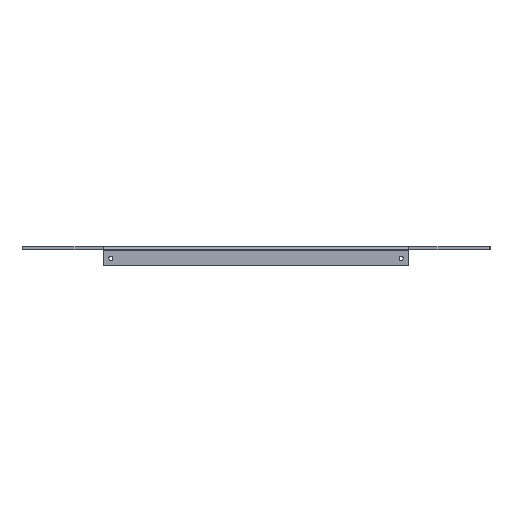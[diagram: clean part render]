
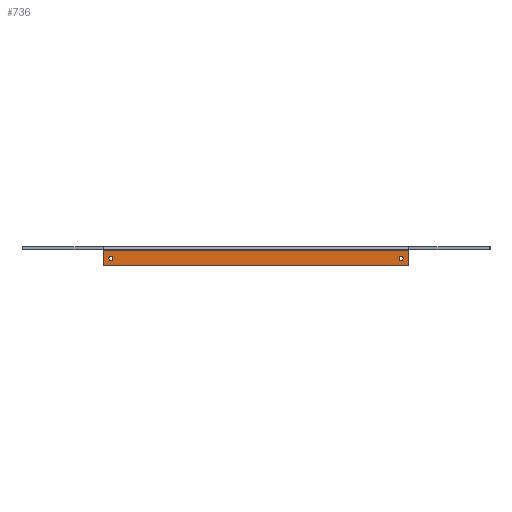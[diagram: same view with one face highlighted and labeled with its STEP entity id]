
A CAD part, left-side view. The second image highlights one B-rep face of the part: STEP entity #736.
In plain terms, the highlighted planar face has unit normal (-1, 0, 0).
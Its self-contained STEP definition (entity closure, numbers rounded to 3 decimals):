
#623=CARTESIAN_POINT('',(375.,4788.5,823.5));
#624=VERTEX_POINT('',#623);
#631=CARTESIAN_POINT('',(375.,5178.5,823.5));
#632=VERTEX_POINT('',#631);
#633=CARTESIAN_POINT('',(375.,5178.5,823.5));
#634=DIRECTION('',(-0.,-1.,-0.));
#635=VECTOR('',#634,390.);
#636=LINE('',#633,#635);
#637=EDGE_CURVE('',#632,#624,#636,.T.);
#648=CARTESIAN_POINT('',(375.,4693.5,840.));
#649=DIRECTION('',(-1.,0.,0.));
#650=DIRECTION('',(-0.,-1.,-0.));
#651=AXIS2_PLACEMENT_3D('',#648,#649,#650);
#652=PLANE('',#651);
#653=CARTESIAN_POINT('',(375.,5169.5,829.9));
#654=VERTEX_POINT('',#653);
#655=CARTESIAN_POINT('',(375.,5166.9,832.5));
#656=VERTEX_POINT('',#655);
#657=CARTESIAN_POINT('',(375.,5169.5,832.5));
#658=DIRECTION('',(-1.,0.,0.));
#659=DIRECTION('',(-0.,-1.,0.));
#660=AXIS2_PLACEMENT_3D('',#657,#658,#659);
#661=CIRCLE('',#660,2.6);
#662=EDGE_CURVE('',#654,#656,#661,.T.);
#663=ORIENTED_EDGE('',*,*,#662,.F.);
#664=CARTESIAN_POINT('',(375.,5169.5,832.5));
#665=DIRECTION('',(-1.,0.,0.));
#666=DIRECTION('',(-0.,-1.,0.));
#667=AXIS2_PLACEMENT_3D('',#664,#665,#666);
#668=CIRCLE('',#667,2.6);
#669=EDGE_CURVE('',#656,#654,#668,.T.);
#670=ORIENTED_EDGE('',*,*,#669,.F.);
#671=EDGE_LOOP('',(#663,#670));
#672=FACE_BOUND('',#671,.T.);
#673=CARTESIAN_POINT('',(375.,4797.5,829.9));
#674=VERTEX_POINT('',#673);
#675=CARTESIAN_POINT('',(375.,4794.9,832.5));
#676=VERTEX_POINT('',#675);
#677=CARTESIAN_POINT('',(375.,4797.5,832.5));
#678=DIRECTION('',(-1.,0.,0.));
#679=DIRECTION('',(-0.,-1.,0.));
#680=AXIS2_PLACEMENT_3D('',#677,#678,#679);
#681=CIRCLE('',#680,2.6);
#682=EDGE_CURVE('',#674,#676,#681,.T.);
#683=ORIENTED_EDGE('',*,*,#682,.F.);
#684=CARTESIAN_POINT('',(375.,4797.5,832.5));
#685=DIRECTION('',(-1.,0.,0.));
#686=DIRECTION('',(-0.,-1.,0.));
#687=AXIS2_PLACEMENT_3D('',#684,#685,#686);
#688=CIRCLE('',#687,2.6);
#689=EDGE_CURVE('',#676,#674,#688,.T.);
#690=ORIENTED_EDGE('',*,*,#689,.F.);
#691=EDGE_LOOP('',(#683,#690));
#692=FACE_BOUND('',#691,.T.);
#693=CARTESIAN_POINT('',(375.,4787.5,842.5));
#694=VERTEX_POINT('',#693);
#695=CARTESIAN_POINT('',(375.,4787.5,824.5));
#696=VERTEX_POINT('',#695);
#697=CARTESIAN_POINT('',(375.,4787.5,842.5));
#698=DIRECTION('',(0.,0.,-1.));
#699=VECTOR('',#698,18.);
#700=LINE('',#697,#699);
#701=EDGE_CURVE('',#694,#696,#700,.T.);
#702=ORIENTED_EDGE('',*,*,#701,.F.);
#703=CARTESIAN_POINT('',(375.,5179.5,842.5));
#704=VERTEX_POINT('',#703);
#705=CARTESIAN_POINT('',(375.,4787.5,842.5));
#706=DIRECTION('',(0.,1.,0.));
#707=VECTOR('',#706,392.);
#708=LINE('',#705,#707);
#709=EDGE_CURVE('',#694,#704,#708,.T.);
#710=ORIENTED_EDGE('',*,*,#709,.T.);
#711=CARTESIAN_POINT('',(375.,5179.5,824.5));
#712=VERTEX_POINT('',#711);
#713=CARTESIAN_POINT('',(375.,5179.5,842.5));
#714=DIRECTION('',(0.,0.,-1.));
#715=VECTOR('',#714,18.);
#716=LINE('',#713,#715);
#717=EDGE_CURVE('',#704,#712,#716,.T.);
#718=ORIENTED_EDGE('',*,*,#717,.T.);
#719=CARTESIAN_POINT('',(375.,5178.5,824.5));
#720=DIRECTION('',(-1.,0.,0.));
#721=DIRECTION('',(-0.,-1.,0.));
#722=AXIS2_PLACEMENT_3D('',#719,#720,#721);
#723=CIRCLE('',#722,1.);
#724=EDGE_CURVE('',#712,#632,#723,.T.);
#725=ORIENTED_EDGE('',*,*,#724,.T.);
#726=ORIENTED_EDGE('',*,*,#637,.T.);
#727=CARTESIAN_POINT('',(375.,4788.5,824.5));
#728=DIRECTION('',(-1.,0.,0.));
#729=DIRECTION('',(-0.,-1.,0.));
#730=AXIS2_PLACEMENT_3D('',#727,#728,#729);
#731=CIRCLE('',#730,1.);
#732=EDGE_CURVE('',#624,#696,#731,.T.);
#733=ORIENTED_EDGE('',*,*,#732,.T.);
#734=EDGE_LOOP('',(#702,#710,#718,#725,#726,#733));
#735=FACE_BOUND('',#734,.T.);
#736=ADVANCED_FACE('',(#672,#692,#735),#652,.T.);
